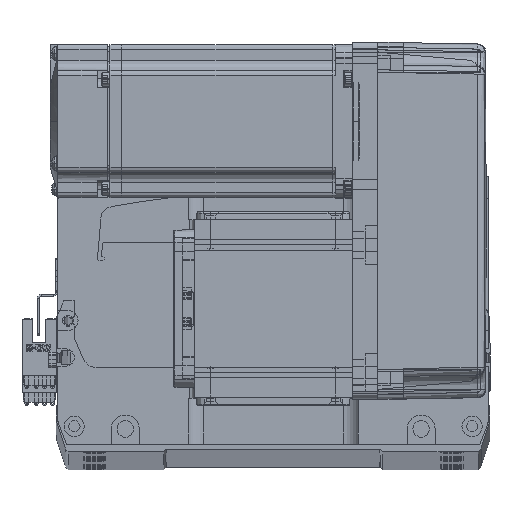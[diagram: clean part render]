
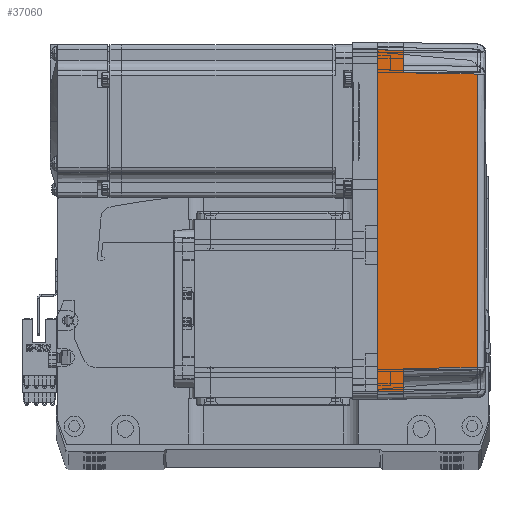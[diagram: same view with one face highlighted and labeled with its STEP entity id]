
A CAD part, top view. The second image highlights one B-rep face of the part: STEP entity #37060.
In plain terms, the highlighted planar face has unit normal (0.018, 0, 1) as drawn and (0, -1, 0.017) by its records, which use the part's own axes.
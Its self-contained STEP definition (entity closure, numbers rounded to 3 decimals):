
#554 = ORIENTED_EDGE ( 'NONE', *, *, #13413, .T. ) ;
#871 = CARTESIAN_POINT ( 'NONE',  ( -19.165, -35.316, 39.181 ) ) ;
#5042 = ORIENTED_EDGE ( 'NONE', *, *, #9176, .T. ) ;
#6370 = EDGE_CURVE ( 'NONE', #15754, #11745, #33717, .T. ) ;
#7029 = CARTESIAN_POINT ( 'NONE',  ( 66.826, -35.825, 10. ) ) ;
#7090 = DIRECTION ( 'NONE',  ( -1., 0., 0. ) ) ;
#7148 = B_SPLINE_CURVE_WITH_KNOTS ( 'NONE', 3,
 ( #24028, #53381, #871, #18870 ),
 .UNSPECIFIED., .F., .F.,
 ( 4, 4 ),
 ( 0., 1. ),
 .UNSPECIFIED. ) ;
#7939 = ORIENTED_EDGE ( 'NONE', *, *, #15911, .F. ) ;
#8351 = DIRECTION ( 'NONE',  ( -0.017, 0.017, 1. ) ) ;
#9176 = EDGE_CURVE ( 'NONE', #51871, #29862, #55472, .T. ) ;
#11440 = VERTEX_POINT ( 'NONE', #60164 ) ;
#11745 = VERTEX_POINT ( 'NONE', #34119 ) ;
#13413 = EDGE_CURVE ( 'NONE', #11745, #73433, #7148, .T. ) ;
#13973 = ORIENTED_EDGE ( 'NONE', *, *, #42885, .T. ) ;
#14205 = CARTESIAN_POINT ( 'NONE',  ( -57.495, -35.32, 38.985 ) ) ;
#15754 = VERTEX_POINT ( 'NONE', #42832 ) ;
#15911 = EDGE_CURVE ( 'NONE', #11440, #28315, #33141, .T. ) ;
#16734 = DIRECTION ( 'NONE',  ( 0., -1., 0.017 ) ) ;
#17997 = LINE ( 'NONE', #71114, #70551 ) ;
#18870 = CARTESIAN_POINT ( 'NONE',  ( -57.495, -35.32, 38.985 ) ) ;
#21708 = LINE ( 'NONE', #39997, #23554 ) ;
#23554 = VECTOR ( 'NONE', #45081, 1000. ) ;
#23702 = CARTESIAN_POINT ( 'NONE',  ( -58., -35.825, 10. ) ) ;
#23799 = CARTESIAN_POINT ( 'NONE',  ( 70., -35.825, 10. ) ) ;
#24028 = CARTESIAN_POINT ( 'NONE',  ( 57.495, -35.32, 38.985 ) ) ;
#24287 = CARTESIAN_POINT ( 'NONE',  ( 58., -35.825, 10. ) ) ;
#24611 = VECTOR ( 'NONE', #8351, 1000. ) ;
#25688 = VECTOR ( 'NONE', #7090, 1000. ) ;
#27934 = PLANE ( 'NONE',  #38548 ) ;
#28315 = VERTEX_POINT ( 'NONE', #48071 ) ;
#29862 = VERTEX_POINT ( 'NONE', #7029 ) ;
#31318 = VECTOR ( 'NONE', #45575, 1000. ) ;
#31418 = DIRECTION ( 'NONE',  ( -1., 0., 0. ) ) ;
#33141 = LINE ( 'NONE', #57408, #31318 ) ;
#33717 = LINE ( 'NONE', #24287, #24611 ) ;
#34119 = CARTESIAN_POINT ( 'NONE',  ( 57.495, -35.32, 38.985 ) ) ;
#37060 = ADVANCED_FACE ( 'NONE', ( #59010 ), #27934, .T. ) ;
#37123 = ORIENTED_EDGE ( 'NONE', *, *, #41335, .T. ) ;
#38548 = AXIS2_PLACEMENT_3D ( 'NONE', #51461, #16734, #39359 ) ;
#39359 = DIRECTION ( 'NONE',  ( 0., -0.017, -1. ) ) ;
#39997 = CARTESIAN_POINT ( 'NONE',  ( 70., -35.825, 10. ) ) ;
#41255 = VECTOR ( 'NONE', #56160, 1000. ) ;
#41335 = EDGE_CURVE ( 'NONE', #73433, #43311, #61988, .T. ) ;
#42832 = CARTESIAN_POINT ( 'NONE',  ( 58., -35.825, 10. ) ) ;
#42885 = EDGE_CURVE ( 'NONE', #29862, #15754, #62942, .T. ) ;
#43311 = VERTEX_POINT ( 'NONE', #23702 ) ;
#44010 = ORIENTED_EDGE ( 'NONE', *, *, #66306, .F. ) ;
#44515 = CARTESIAN_POINT ( 'NONE',  ( 67., -36., 0. ) ) ;
#45081 = DIRECTION ( 'NONE',  ( -1., 0., 0. ) ) ;
#45575 = DIRECTION ( 'NONE',  ( 0.017, 0.017, 1. ) ) ;
#46044 = ORIENTED_EDGE ( 'NONE', *, *, #6370, .T. ) ;
#46736 = EDGE_LOOP ( 'NONE', ( #5042, #13973, #46044, #554, #37123, #62251, #7939, #44010 ) ) ;
#48071 = CARTESIAN_POINT ( 'NONE',  ( -66.826, -35.825, 10. ) ) ;
#50149 = CARTESIAN_POINT ( 'NONE',  ( -57.495, -35.32, 38.985 ) ) ;
#51461 = CARTESIAN_POINT ( 'NONE',  ( 70., -36., 0. ) ) ;
#51871 = VERTEX_POINT ( 'NONE', #44515 ) ;
#53381 = CARTESIAN_POINT ( 'NONE',  ( 19.165, -35.316, 39.181 ) ) ;
#55472 = LINE ( 'NONE', #62337, #62705 ) ;
#56160 = DIRECTION ( 'NONE',  ( -0.017, -0.017, -1. ) ) ;
#56573 = EDGE_CURVE ( 'NONE', #43311, #28315, #21708, .T. ) ;
#57408 = CARTESIAN_POINT ( 'NONE',  ( -66.959, -35.958, 2.39 ) ) ;
#59010 = FACE_OUTER_BOUND ( 'NONE', #46736, .T. ) ;
#60164 = CARTESIAN_POINT ( 'NONE',  ( -67., -36., 0. ) ) ;
#61988 = LINE ( 'NONE', #50149, #41255 ) ;
#62251 = ORIENTED_EDGE ( 'NONE', *, *, #56573, .T. ) ;
#62337 = CARTESIAN_POINT ( 'NONE',  ( 67., -36., 0. ) ) ;
#62705 = VECTOR ( 'NONE', #68669, 1000. ) ;
#62942 = LINE ( 'NONE', #23799, #25688 ) ;
#66306 = EDGE_CURVE ( 'NONE', #51871, #11440, #17997, .T. ) ;
#68669 = DIRECTION ( 'NONE',  ( -0.017, 0.017, 1. ) ) ;
#70551 = VECTOR ( 'NONE', #31418, 1000. ) ;
#71114 = CARTESIAN_POINT ( 'NONE',  ( 0., -36., 0. ) ) ;
#73433 = VERTEX_POINT ( 'NONE', #14205 ) ;
